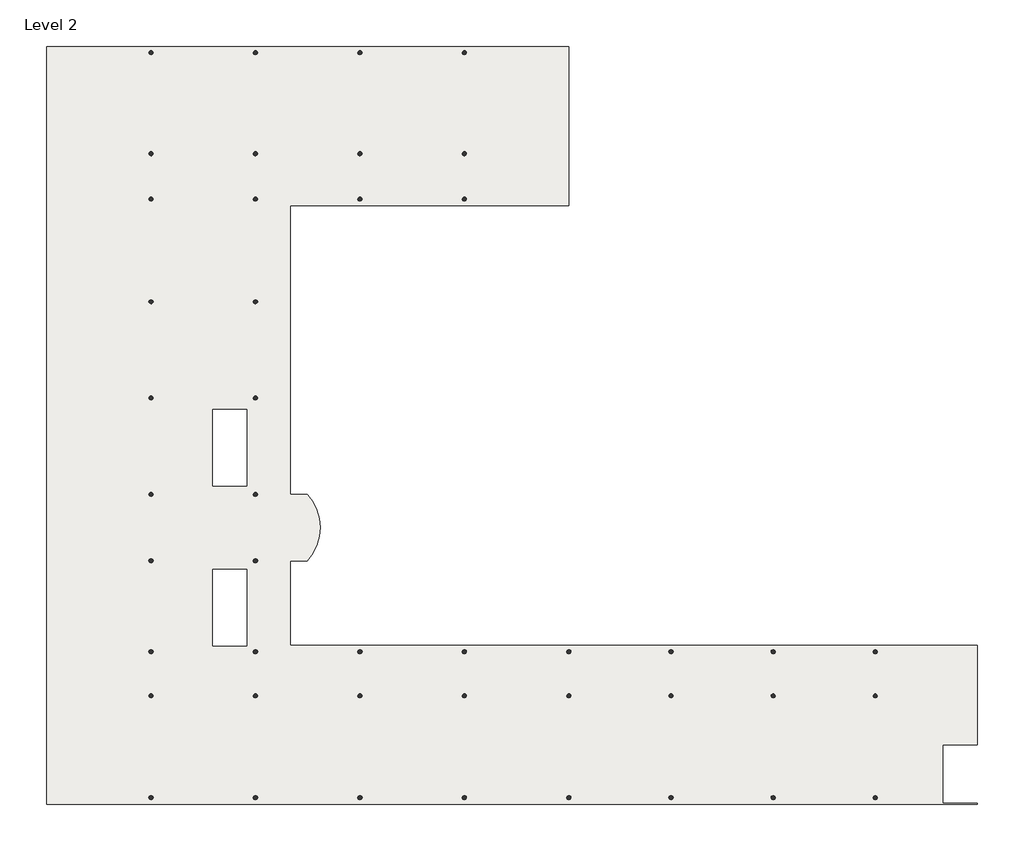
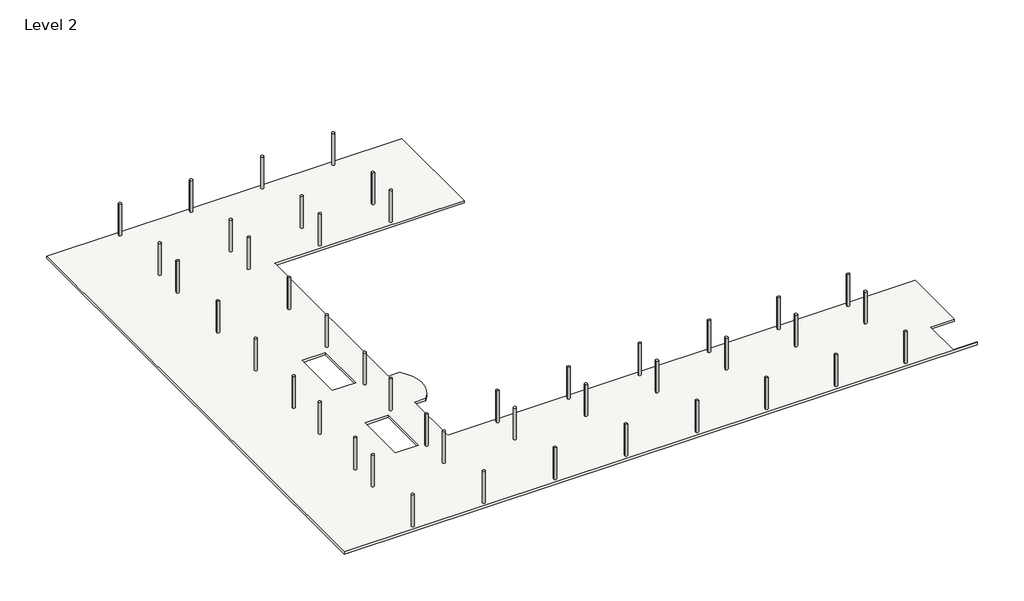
# One storey: 44 columns, 1 slab.
"""IFC4 building model written with IfcOpenShell, lengths in millimetres."""

from ifc_helpers import new_model, si_unit, point, frame, frame_2d, origin, place, context, project, spatial, polyline, circle_curve, trimmed, segment, composite_curve, outline, extrude, transform, mapped, element, save
from components import m_concrete_round_column_300mm_33275d7c

model = new_model("IFC4")

# Units and contexts
model_context = context("Model", 3, world=origin())
ifc_project = project(units=[si_unit("LENGTHUNIT", "METRE", prefix="MILLI")], contexts=[model_context])

# Site, building, storey
site = spatial("IfcSite", under=ifc_project)
building = spatial("IfcBuilding", under=site)
storey = spatial("IfcBuildingStorey", under=building, Name="Level 2", Elevation=3800.0)

# Columns
placement = place(None, origin())
m_concrete_round_column_300mm_shape = m_concrete_round_column_300mm_33275d7c(model_context)
element("IfcColumn", 1, ObjectType="M_Concrete-Round-Column : 300mm", at=placement, inside=storey, context=model_context, shape_type="MappedRepresentation", body=[
    mapped(m_concrete_round_column_300mm_shape, transform((-2539.0909489, 23121.5799804, 0.0), x_axis=(-1.0, 0.0, 0.0), y_axis=(0.0, -1.0, 0.0), z_axis=(0.0, 0.0, 1.0))),
])
element("IfcColumn", 2, ObjectType="M_Concrete-Round-Column : 300mm", at=placement, inside=storey, context=model_context, shape_type="MappedRepresentation", body=[
    mapped(m_concrete_round_column_300mm_shape, transform((-2539.0909489, 12506.7392059, 0.0), x_axis=(-1.0, 0.0, 0.0), y_axis=(0.0, -1.0, 0.0), z_axis=(0.0, 0.0, 1.0))),
])
element("IfcColumn", 3, ObjectType="M_Concrete-Round-Column : 300mm", at=placement, inside=storey, context=model_context, shape_type="MappedRepresentation", body=[
    mapped(m_concrete_round_column_300mm_shape, transform((-2539.0909489, 5598.6392059, 0.0), x_axis=(-1.0, 0.0, 0.0), y_axis=(0.0, -1.0, 0.0), z_axis=(0.0, 0.0, 1.0))),
])
element("IfcColumn", 4, ObjectType="M_Concrete-Round-Column : 300mm", at=placement, inside=storey, context=model_context, shape_type="MappedRepresentation", body=[
    mapped(m_concrete_round_column_300mm_shape, transform((-2539.0909489, -1309.4607941, 0.0), x_axis=(-1.0, 0.0, 0.0), y_axis=(0.0, -1.0, 0.0), z_axis=(0.0, 0.0, 1.0))),
])
element("IfcColumn", 5, ObjectType="M_Concrete-Round-Column : 300mm", at=placement, inside=storey, context=model_context, shape_type="MappedRepresentation", body=[
    mapped(m_concrete_round_column_300mm_shape, transform((-2539.0909489, -6063.8611817, 0.0), x_axis=(-1.0, 0.0, 0.0), y_axis=(0.0, -1.0, 0.0), z_axis=(0.0, 0.0, 1.0))),
])
element("IfcColumn", 6, ObjectType="M_Concrete-Round-Column : 300mm", at=placement, inside=storey, context=model_context, shape_type="MappedRepresentation", body=[
    mapped(m_concrete_round_column_300mm_shape, transform((-2539.0909489, -15754.7006057, 0.0), x_axis=(-1.0, 0.0, 0.0), y_axis=(0.0, -1.0, 0.0), z_axis=(0.0, 0.0, 1.0))),
])
element("IfcColumn", 7, ObjectType="M_Concrete-Round-Column : 300mm", at=placement, inside=storey, context=model_context, shape_type="MappedRepresentation", body=[
    mapped(m_concrete_round_column_300mm_shape, transform((-2539.0909489, 30368.5799804, 0.0), x_axis=(-1.0, 0.0, 0.0), y_axis=(0.0, -1.0, 0.0), z_axis=(0.0, 0.0, 1.0))),
])
element("IfcColumn", 8, ObjectType="M_Concrete-Round-Column : 300mm", at=placement, inside=storey, context=model_context, shape_type="MappedRepresentation", body=[
    mapped(m_concrete_round_column_300mm_shape, transform((-2539.0909489, 19864.8392059, 0.0), x_axis=(-1.0, 0.0, 0.0), y_axis=(0.0, -1.0, 0.0), z_axis=(0.0, 0.0, 1.0))),
])
element("IfcColumn", 9, ObjectType="M_Concrete-Round-Column : 300mm", at=placement, inside=storey, context=model_context, shape_type="MappedRepresentation", body=[
    mapped(m_concrete_round_column_300mm_shape, transform((-2539.0909489, -12582.3615692, 0.0), x_axis=(-1.0, 0.0, 0.0), y_axis=(0.0, -1.0, 0.0), z_axis=(0.0, 0.0, 1.0))),
])
element("IfcColumn", 10, ObjectType="M_Concrete-Round-Column : 300mm", at=placement, inside=storey, context=model_context, shape_type="MappedRepresentation", body=[
    mapped(m_concrete_round_column_300mm_shape, transform((-2539.0909489, -23060.7006057, 0.0), x_axis=(-1.0, 0.0, 0.0), y_axis=(0.0, -1.0, 0.0), z_axis=(0.0, 0.0, 1.0))),
])
element("IfcColumn", 11, ObjectType="M_Concrete-Round-Column : 300mm", at=placement, inside=storey, context=model_context, shape_type="MappedRepresentation", body=[
    mapped(m_concrete_round_column_300mm_shape, transform((4948.6567657, 23121.5799804, 0.0), x_axis=(-1.0, 0.0, 0.0), y_axis=(0.0, -1.0, 0.0), z_axis=(0.0, 0.0, 1.0))),
])
element("IfcColumn", 12, ObjectType="M_Concrete-Round-Column : 300mm", at=placement, inside=storey, context=model_context, shape_type="MappedRepresentation", body=[
    mapped(m_concrete_round_column_300mm_shape, transform((4948.6567657, 12506.7392059, 0.0), x_axis=(-1.0, 0.0, 0.0), y_axis=(0.0, -1.0, 0.0), z_axis=(0.0, 0.0, 1.0))),
])
element("IfcColumn", 13, ObjectType="M_Concrete-Round-Column : 300mm", at=placement, inside=storey, context=model_context, shape_type="MappedRepresentation", body=[
    mapped(m_concrete_round_column_300mm_shape, transform((4948.6567657, 5598.6392059, 0.0), x_axis=(-1.0, 0.0, 0.0), y_axis=(0.0, -1.0, 0.0), z_axis=(0.0, 0.0, 1.0))),
])
element("IfcColumn", 14, ObjectType="M_Concrete-Round-Column : 300mm", at=placement, inside=storey, context=model_context, shape_type="MappedRepresentation", body=[
    mapped(m_concrete_round_column_300mm_shape, transform((4948.6567657, -1309.4607941, 0.0), x_axis=(-1.0, 0.0, 0.0), y_axis=(0.0, -1.0, 0.0), z_axis=(0.0, 0.0, 1.0))),
])
element("IfcColumn", 15, ObjectType="M_Concrete-Round-Column : 300mm", at=placement, inside=storey, context=model_context, shape_type="MappedRepresentation", body=[
    mapped(m_concrete_round_column_300mm_shape, transform((4948.6567657, -6063.8611817, 0.0), x_axis=(-1.0, 0.0, 0.0), y_axis=(0.0, -1.0, 0.0), z_axis=(0.0, 0.0, 1.0))),
])
element("IfcColumn", 16, ObjectType="M_Concrete-Round-Column : 300mm", at=placement, inside=storey, context=model_context, shape_type="MappedRepresentation", body=[
    mapped(m_concrete_round_column_300mm_shape, transform((4948.6567657, -15754.7006057, 0.0), x_axis=(-1.0, 0.0, 0.0), y_axis=(0.0, -1.0, 0.0), z_axis=(0.0, 0.0, 1.0))),
])
element("IfcColumn", 17, ObjectType="M_Concrete-Round-Column : 300mm", at=placement, inside=storey, context=model_context, shape_type="MappedRepresentation", body=[
    mapped(m_concrete_round_column_300mm_shape, transform((4948.6567657, 30368.5799804, 0.0), x_axis=(-1.0, 0.0, 0.0), y_axis=(0.0, -1.0, 0.0), z_axis=(0.0, 0.0, 1.0))),
])
element("IfcColumn", 18, ObjectType="M_Concrete-Round-Column : 300mm", at=placement, inside=storey, context=model_context, shape_type="MappedRepresentation", body=[
    mapped(m_concrete_round_column_300mm_shape, transform((4948.6567657, 19864.8392059, 0.0), x_axis=(-1.0, 0.0, 0.0), y_axis=(0.0, -1.0, 0.0), z_axis=(0.0, 0.0, 1.0))),
])
element("IfcColumn", 19, ObjectType="M_Concrete-Round-Column : 300mm", at=placement, inside=storey, context=model_context, shape_type="MappedRepresentation", body=[
    mapped(m_concrete_round_column_300mm_shape, transform((4948.6567657, -12582.3615692, 0.0), x_axis=(-1.0, 0.0, 0.0), y_axis=(0.0, -1.0, 0.0), z_axis=(0.0, 0.0, 1.0))),
])
element("IfcColumn", 20, ObjectType="M_Concrete-Round-Column : 300mm", at=placement, inside=storey, context=model_context, shape_type="MappedRepresentation", body=[
    mapped(m_concrete_round_column_300mm_shape, transform((4948.6567657, -23060.7006057, 0.0), x_axis=(-1.0, 0.0, 0.0), y_axis=(0.0, -1.0, 0.0), z_axis=(0.0, 0.0, 1.0))),
])
element("IfcColumn", 21, ObjectType="M_Concrete-Round-Column : 300mm", at=placement, inside=storey, context=model_context, shape_type="MappedRepresentation", body=[
    mapped(m_concrete_round_column_300mm_shape, transform((12436.4044804, 23121.5799804, 0.0), x_axis=(-1.0, 0.0, 0.0), y_axis=(0.0, -1.0, 0.0), z_axis=(0.0, 0.0, 1.0))),
])
element("IfcColumn", 22, ObjectType="M_Concrete-Round-Column : 300mm", at=placement, inside=storey, context=model_context, shape_type="MappedRepresentation", body=[
    mapped(m_concrete_round_column_300mm_shape, transform((12436.4044804, -15754.7006057, 0.0), x_axis=(-1.0, 0.0, 0.0), y_axis=(0.0, -1.0, 0.0), z_axis=(0.0, 0.0, 1.0))),
])
element("IfcColumn", 23, ObjectType="M_Concrete-Round-Column : 300mm", at=placement, inside=storey, context=model_context, shape_type="MappedRepresentation", body=[
    mapped(m_concrete_round_column_300mm_shape, transform((12436.4044804, 30368.5799804, 0.0), x_axis=(-1.0, 0.0, 0.0), y_axis=(0.0, -1.0, 0.0), z_axis=(0.0, 0.0, 1.0))),
])
element("IfcColumn", 24, ObjectType="M_Concrete-Round-Column : 300mm", at=placement, inside=storey, context=model_context, shape_type="MappedRepresentation", body=[
    mapped(m_concrete_round_column_300mm_shape, transform((12436.4044804, 19864.8392059, 0.0), x_axis=(-1.0, 0.0, 0.0), y_axis=(0.0, -1.0, 0.0), z_axis=(0.0, 0.0, 1.0))),
])
element("IfcColumn", 25, ObjectType="M_Concrete-Round-Column : 300mm", at=placement, inside=storey, context=model_context, shape_type="MappedRepresentation", body=[
    mapped(m_concrete_round_column_300mm_shape, transform((12436.4044804, -12582.3615692, 0.0), x_axis=(-1.0, 0.0, 0.0), y_axis=(0.0, -1.0, 0.0), z_axis=(0.0, 0.0, 1.0))),
])
element("IfcColumn", 26, ObjectType="M_Concrete-Round-Column : 300mm", at=placement, inside=storey, context=model_context, shape_type="MappedRepresentation", body=[
    mapped(m_concrete_round_column_300mm_shape, transform((12436.4044804, -23060.7006057, 0.0), x_axis=(-1.0, 0.0, 0.0), y_axis=(0.0, -1.0, 0.0), z_axis=(0.0, 0.0, 1.0))),
])
element("IfcColumn", 27, ObjectType="M_Concrete-Round-Column : 300mm", at=placement, inside=storey, context=model_context, shape_type="MappedRepresentation", body=[
    mapped(m_concrete_round_column_300mm_shape, transform((19924.152195, 23121.5799804, 0.0), x_axis=(-1.0, 0.0, 0.0), y_axis=(0.0, -1.0, 0.0), z_axis=(0.0, 0.0, 1.0))),
])
element("IfcColumn", 28, ObjectType="M_Concrete-Round-Column : 300mm", at=placement, inside=storey, context=model_context, shape_type="MappedRepresentation", body=[
    mapped(m_concrete_round_column_300mm_shape, transform((19924.152195, -15754.7006057, 0.0), x_axis=(-1.0, 0.0, 0.0), y_axis=(0.0, -1.0, 0.0), z_axis=(0.0, 0.0, 1.0))),
])
element("IfcColumn", 29, ObjectType="M_Concrete-Round-Column : 300mm", at=placement, inside=storey, context=model_context, shape_type="MappedRepresentation", body=[
    mapped(m_concrete_round_column_300mm_shape, transform((19924.152195, 30368.5799804, 0.0), x_axis=(-1.0, 0.0, 0.0), y_axis=(0.0, -1.0, 0.0), z_axis=(0.0, 0.0, 1.0))),
])
element("IfcColumn", 30, ObjectType="M_Concrete-Round-Column : 300mm", at=placement, inside=storey, context=model_context, shape_type="MappedRepresentation", body=[
    mapped(m_concrete_round_column_300mm_shape, transform((19924.152195, 19864.8392059, 0.0), x_axis=(-1.0, 0.0, 0.0), y_axis=(0.0, -1.0, 0.0), z_axis=(0.0, 0.0, 1.0))),
])
element("IfcColumn", 31, ObjectType="M_Concrete-Round-Column : 300mm", at=placement, inside=storey, context=model_context, shape_type="MappedRepresentation", body=[
    mapped(m_concrete_round_column_300mm_shape, transform((19924.152195, -12582.3615692, 0.0), x_axis=(-1.0, 0.0, 0.0), y_axis=(0.0, -1.0, 0.0), z_axis=(0.0, 0.0, 1.0))),
])
element("IfcColumn", 32, ObjectType="M_Concrete-Round-Column : 300mm", at=placement, inside=storey, context=model_context, shape_type="MappedRepresentation", body=[
    mapped(m_concrete_round_column_300mm_shape, transform((19924.152195, -23060.7006057, 0.0), x_axis=(-1.0, 0.0, 0.0), y_axis=(0.0, -1.0, 0.0), z_axis=(0.0, 0.0, 1.0))),
])
element("IfcColumn", 33, ObjectType="M_Concrete-Round-Column : 300mm", at=placement, inside=storey, context=model_context, shape_type="MappedRepresentation", body=[
    mapped(m_concrete_round_column_300mm_shape, transform((27411.8999097, -15754.7006057, 0.0), x_axis=(-1.0, 0.0, 0.0), y_axis=(0.0, -1.0, 0.0), z_axis=(0.0, 0.0, 1.0))),
])
element("IfcColumn", 34, ObjectType="M_Concrete-Round-Column : 300mm", at=placement, inside=storey, context=model_context, shape_type="MappedRepresentation", body=[
    mapped(m_concrete_round_column_300mm_shape, transform((27411.8999097, -12582.3615692, 0.0), x_axis=(-1.0, 0.0, 0.0), y_axis=(0.0, -1.0, 0.0), z_axis=(0.0, 0.0, 1.0))),
])
element("IfcColumn", 35, ObjectType="M_Concrete-Round-Column : 300mm", at=placement, inside=storey, context=model_context, shape_type="MappedRepresentation", body=[
    mapped(m_concrete_round_column_300mm_shape, transform((27411.8999097, -23060.7006057, 0.0), x_axis=(-1.0, 0.0, 0.0), y_axis=(0.0, -1.0, 0.0), z_axis=(0.0, 0.0, 1.0))),
])
element("IfcColumn", 36, ObjectType="M_Concrete-Round-Column : 300mm", at=placement, inside=storey, context=model_context, shape_type="MappedRepresentation", body=[
    mapped(m_concrete_round_column_300mm_shape, transform((34733.7042668, -15754.7006057, 0.0), x_axis=(-1.0, 0.0, 0.0), y_axis=(0.0, -1.0, 0.0), z_axis=(0.0, 0.0, 1.0))),
])
element("IfcColumn", 37, ObjectType="M_Concrete-Round-Column : 300mm", at=placement, inside=storey, context=model_context, shape_type="MappedRepresentation", body=[
    mapped(m_concrete_round_column_300mm_shape, transform((34733.7042668, -12582.3615692, 0.0), x_axis=(-1.0, 0.0, 0.0), y_axis=(0.0, -1.0, 0.0), z_axis=(0.0, 0.0, 1.0))),
])
element("IfcColumn", 38, ObjectType="M_Concrete-Round-Column : 300mm", at=placement, inside=storey, context=model_context, shape_type="MappedRepresentation", body=[
    mapped(m_concrete_round_column_300mm_shape, transform((34733.7042668, -23060.7006057, 0.0), x_axis=(-1.0, 0.0, 0.0), y_axis=(0.0, -1.0, 0.0), z_axis=(0.0, 0.0, 1.0))),
])
element("IfcColumn", 39, ObjectType="M_Concrete-Round-Column : 300mm", at=placement, inside=storey, context=model_context, shape_type="MappedRepresentation", body=[
    mapped(m_concrete_round_column_300mm_shape, transform((42055.5086239, -15754.7006057, 0.0), x_axis=(-1.0, 0.0, 0.0), y_axis=(0.0, -1.0, 0.0), z_axis=(0.0, 0.0, 1.0))),
])
element("IfcColumn", 40, ObjectType="M_Concrete-Round-Column : 300mm", at=placement, inside=storey, context=model_context, shape_type="MappedRepresentation", body=[
    mapped(m_concrete_round_column_300mm_shape, transform((42055.5086239, -12582.3615692, 0.0), x_axis=(-1.0, 0.0, 0.0), y_axis=(0.0, -1.0, 0.0), z_axis=(0.0, 0.0, 1.0))),
])
element("IfcColumn", 41, ObjectType="M_Concrete-Round-Column : 300mm", at=placement, inside=storey, context=model_context, shape_type="MappedRepresentation", body=[
    mapped(m_concrete_round_column_300mm_shape, transform((42055.5086239, -23060.7006057, 0.0), x_axis=(-1.0, 0.0, 0.0), y_axis=(0.0, -1.0, 0.0), z_axis=(0.0, 0.0, 1.0))),
])
element("IfcColumn", 42, ObjectType="M_Concrete-Round-Column : 300mm", at=placement, inside=storey, context=model_context, shape_type="MappedRepresentation", body=[
    mapped(m_concrete_round_column_300mm_shape, transform((49377.3129811, -15754.7006057, 0.0), x_axis=(-1.0, 0.0, 0.0), y_axis=(0.0, -1.0, 0.0), z_axis=(0.0, 0.0, 1.0))),
])
element("IfcColumn", 43, ObjectType="M_Concrete-Round-Column : 300mm", at=placement, inside=storey, context=model_context, shape_type="MappedRepresentation", body=[
    mapped(m_concrete_round_column_300mm_shape, transform((49377.3129811, -12582.3615692, 0.0), x_axis=(-1.0, 0.0, 0.0), y_axis=(0.0, -1.0, 0.0), z_axis=(0.0, 0.0, 1.0))),
])
element("IfcColumn", 44, ObjectType="M_Concrete-Round-Column : 300mm", at=placement, inside=storey, context=model_context, shape_type="MappedRepresentation", body=[
    mapped(m_concrete_round_column_300mm_shape, transform((49377.3129811, -23060.7006057, 0.0), x_axis=(-1.0, 0.0, 0.0), y_axis=(0.0, -1.0, 0.0), z_axis=(0.0, 0.0, 1.0))),
])

# Slab
element("IfcSlab", 45, ObjectType="250mm Concrete", at=placement, inside=storey, context=model_context, shape_type="SweptSolid", body=[
    extrude(outline(composite_curve([segment(polyline([(27411.8999097, 30818.5799804), (27411.8999097, 19414.8392059), (7447.5010724, 19414.8392059), (7447.5010724, -1309.4607941), (8647.5010724, -1309.4607941)]), True, "CONTINUOUS"), segment(trimmed(circle_curve(frame_2d((6078.6649081, -3686.6609879)), 3500.0), [point((8647.5010724, -1309.4607941))], [point((8647.5010724, -6063.8611817))], False, "CARTESIAN"), True, "CONTINUOUS"), segment(polyline([(8647.5010724, -6063.8611817), (7447.5010724, -6063.8611817), (7447.5010724, -12132.3615692), (56699.1173382, -12132.3615692), (56699.1173382, -19265.7006057), (54199.1173382, -19265.7006057), (54199.1173382, -23440.7006057), (56699.1173382, -23440.7006057), (56699.1173382, -23510.7006057), (-10026.8386635, -23510.7006057), (-10026.8386635, 30818.5799804), (27411.8999097, 30818.5799804)]), True, "CONTINUOUS")], self_intersect=False), holes=[polyline([(1898.6567657, -699.4607941), (4338.6567657, -699.4607941), (4338.6567657, 4800.5392059), (1898.6567657, 4800.5392059), (1898.6567657, -699.4607941)]), polyline([(1898.6567657, -6673.8611817), (1898.6567657, -12173.8611817), (4338.6567657, -12173.8611817), (4338.6567657, -6673.8611817), (1898.6567657, -6673.8611817)])]), frame((0.0, 0.0, 3550.0), z_axis=(0.0, 0.0, 1.0), x_axis=(1.0, 0.0, 0.0)), (0.0, 0.0, 1.0), 250.0),
])

save(model, "model.ifc")
